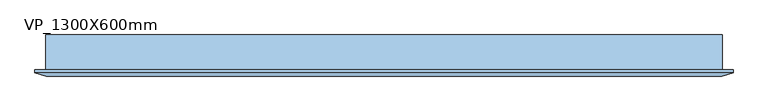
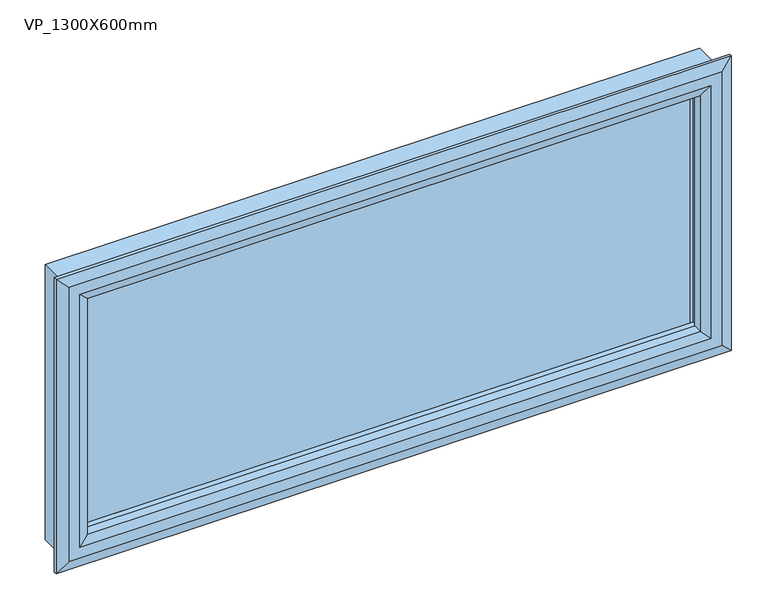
"""IFC4 building model written with IfcOpenShell, lengths in millimetres: window geometry, VENTANA_PROYECTANTE_1HOJA : VP_1300X600mm."""

from ifc_helpers import new_model, si_unit, frame, origin, place, context, project, spatial, polyline, outline, extrude, faceted_brep, source, transform, mapped, element, save


def vp_1300x600mm_0113bc5a(model_context):
    return source(origin(), model_context, "Body", "SolidModel", [
        extrude(outline(polyline([(580.0, -72.4565678), (580.0, -96.4565678), (-580.0, -96.4565678), (-580.0, -72.4565678), (580.0, -72.4565678)])), frame((0.0, 0.0, 1580.0), z_axis=(0.0, 0.0, 1.0), x_axis=(1.0, 0.0, 0.0)), (0.0, 0.0, 1.0), 460.0),
        faceted_brep([(-650.0, -108.4565678, 2110.0), (-650.0, -108.4565678, 1510.0), (-650.0, -114.2300705, 1510.0), (-650.0, -114.2300705, 2110.0), (-630.0, -43.4565678, 2090.0), (-630.0, -43.4565678, 1530.0), (-630.0, -108.4565678, 1530.0), (-630.0, -108.4565678, 2090.0), (-590.0, -57.9494677, 2050.0), (-590.0, -57.9494677, 1570.0), (-600.1480377, -43.4565678, 1559.8519623), (-600.1480377, -43.4565678, 2060.1480377), (-590.0, -72.4565678, 2050.0), (-590.0, -72.4565678, 1570.0), (-600.0, -96.4565678, 2060.0), (-600.0, -96.4565678, 1560.0), (-600.0, -72.4565678, 1560.0), (-600.0, -72.4565678, 2060.0), (-590.0, -114.2300705, 2050.0), (-590.0, -114.2300705, 1570.0), (-590.0, -96.4565678, 1570.0), (-590.0, -96.4565678, 2050.0), (-607.4457548, -120.0035732, 2067.4457548), (-607.4457548, -120.0035732, 1552.5542452), (-629.2153903, -120.0035732, 1530.7846097), (-629.2153903, -120.0035732, 2089.2153903), (650.0, -108.4565678, 1510.0), (650.0, -114.2300705, 1510.0), (630.0, -43.4565678, 1530.0), (630.0, -108.4565678, 1530.0), (590.0, -57.9494677, 1570.0), (600.1480377, -43.4565678, 1559.8519623), (590.0, -72.4565678, 1570.0), (600.0, -96.4565678, 1560.0), (600.0, -72.4565678, 1560.0), (590.0, -114.2300705, 1570.0), (590.0, -96.4565678, 1570.0), (607.4457548, -120.0035732, 1552.5542452), (629.2153903, -120.0035732, 1530.7846097), (650.0, -108.4565678, 2110.0), (650.0, -114.2300705, 2110.0), (630.0, -43.4565678, 2090.0), (630.0, -108.4565678, 2090.0), (590.0, -57.9494677, 2050.0), (600.1480377, -43.4565678, 2060.1480377), (590.0, -72.4565678, 2050.0), (600.0, -96.4565678, 2060.0), (600.0, -72.4565678, 2060.0), (590.0, -114.2300705, 2050.0), (590.0, -96.4565678, 2050.0), (607.4457548, -120.0035732, 2067.4457548), (629.2153903, -120.0035732, 2089.2153903)], [[[0, 1, 2, 3]], [[4, 5, 6, 7]], [[8, 9, 10, 11]], [[12, 13, 9, 8]], [[14, 15, 16, 17]], [[18, 19, 20, 21]], [[22, 23, 19, 18]], [[3, 2, 24, 25]], [[1, 26, 27, 2]], [[5, 28, 29, 6]], [[9, 30, 31, 10]], [[13, 32, 30, 9]], [[15, 33, 34, 16]], [[19, 35, 36, 20]], [[23, 37, 35, 19]], [[2, 27, 38, 24]], [[26, 39, 40, 27]], [[28, 41, 42, 29]], [[30, 43, 44, 31]], [[32, 45, 43, 30]], [[33, 46, 47, 34]], [[35, 48, 49, 36]], [[37, 50, 48, 35]], [[27, 40, 51, 38]], [[39, 0, 3, 40]], [[1, 0, 39, 26], [7, 6, 29, 42]], [[41, 4, 7, 42]], [[5, 4, 41, 28], [11, 10, 31, 44]], [[43, 8, 11, 44]], [[45, 12, 8, 43]], [[17, 16, 34, 47], [13, 12, 45, 32]], [[46, 14, 17, 47]], [[15, 14, 46, 33], [21, 20, 36, 49]], [[48, 18, 21, 49]], [[50, 22, 18, 48]], [[25, 24, 38, 51], [23, 22, 50, 37]], [[40, 3, 25, 51]]]),
    ])


if __name__ == "__main__":
    model = new_model("IFC4")
    model_context = context("Model", 3, world=origin())
    ifc_project = project(units=[si_unit("LENGTHUNIT", "METRE", prefix="MILLI")], contexts=[model_context])
    site = spatial("IfcSite", under=ifc_project)
    building = spatial("IfcBuilding", under=site)
    placement = place(None, origin())
    vp_1300x600mm_shape = vp_1300x600mm_0113bc5a(model_context)
    element("IfcWindow", 1, ObjectType="VENTANA_PROYECTANTE_1HOJA : VP_1300X600mm", at=placement, inside=building, context=model_context, shape_type="MappedRepresentation", body=[
        mapped(vp_1300x600mm_shape, transform((0.0, 0.0, 0.0), x_axis=(1.0, 0.0, 0.0), y_axis=(0.0, 1.0, 0.0), z_axis=(0.0, 0.0, 1.0))),
    ])
    save(model, "model.ifc")
